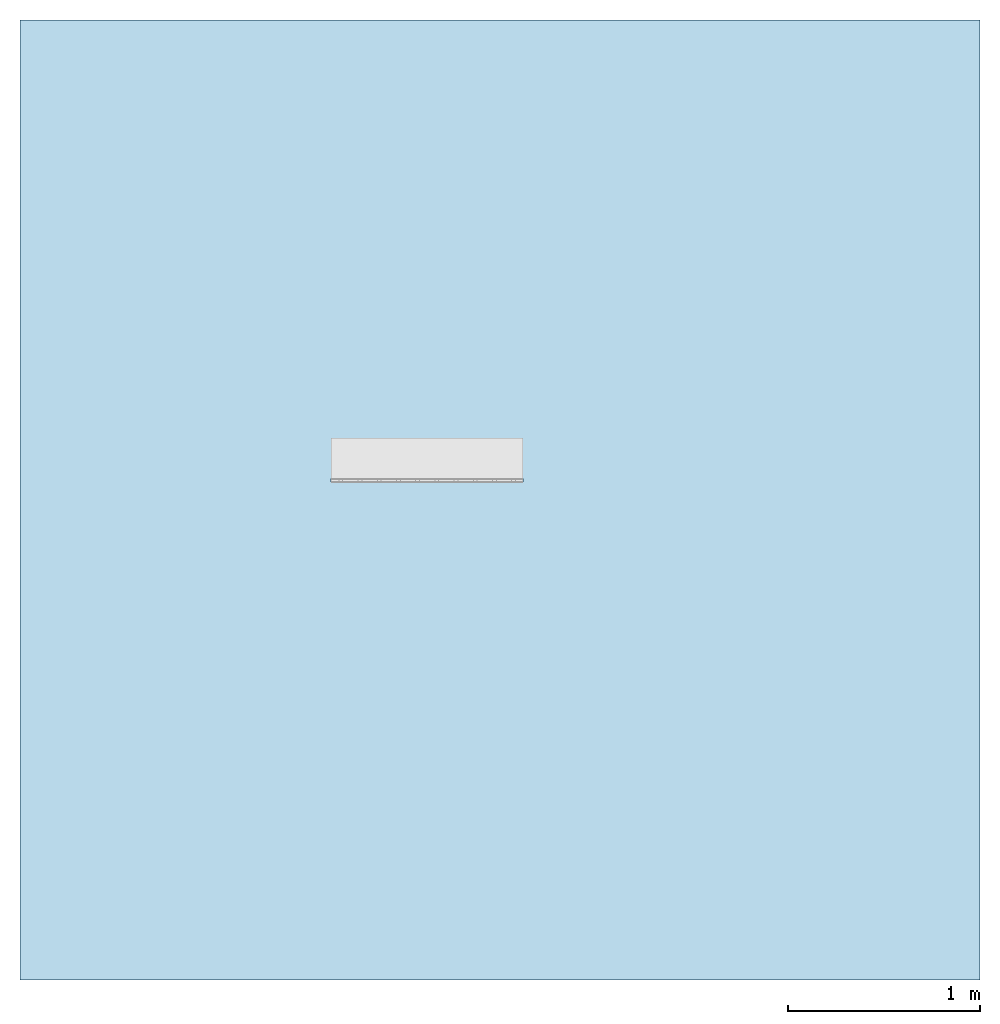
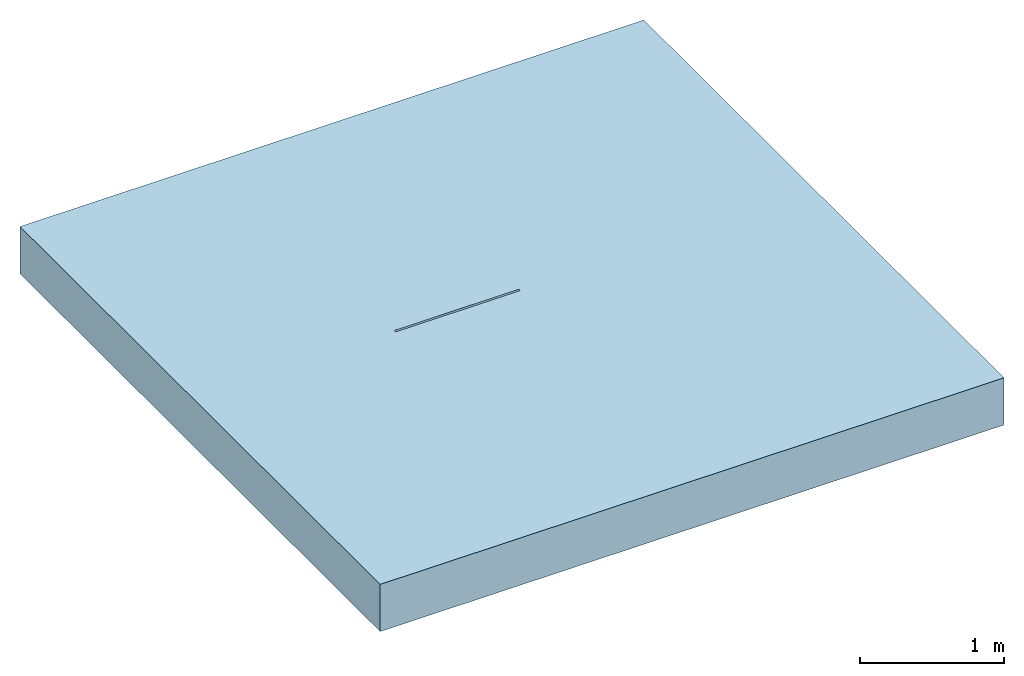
# One storey, part 1 of 2: 1 slab, 2 openings.
"""IFC2X3 building model written with IfcOpenShell, lengths in millimetres."""

from ifc_helpers import new_model, entity, si_unit, converted_unit, direction, frame, frame_2d, origin, place, context, subcontext, project, spatial, polyline, rectangle, outline, extrude, material, layer, layer_set, layer_usage, element, save


model = new_model("IFC2X3")

# Units and contexts
model_context = context("Model", 3, precision=1e-06, world=origin(), true_north=direction((2.0, 6.12303176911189e-17, 1.0)))
context_of_model = context(None, 3, precision=1e-06, world=origin(), true_north=direction((2.0, 6.12303176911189e-17, 1.0)))
body_context = subcontext(model_context, "Body", "Model", "MODEL_VIEW")
ifc_project = project(units=[si_unit("LENGTHUNIT", "METRE", prefix="MILLI"), si_unit("AREAUNIT", "SQUARE_METRE", prefix="MILLI"), si_unit("VOLUMEUNIT", "CUBIC_METRE", prefix="MILLI"), converted_unit("PLANEANGLEUNIT", "DEGREE", entity("IfcRatioMeasure", 0.0174532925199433), si_unit("PLANEANGLEUNIT", "RADIAN"), dimensions=[0, 0, 0, 0, 0, 0, 0]), si_unit("TIMEUNIT", "SECOND")], contexts=[model_context, context_of_model])

# Site, building, storey
site_placement = place(None, origin())
site = spatial("IfcSite", under=ifc_project, at=site_placement, Name="Default", CompositionType="ELEMENT")
building_placement = place(site_placement, origin())
building = spatial("IfcBuilding", under=site, at=building_placement, CompositionType="ELEMENT")
storey_placement = place(building_placement, origin())
storey = spatial("IfcBuildingStorey", under=building, at=storey_placement, Name="Level 1", CompositionType="ELEMENT", Elevation=0.0)

# Slab, openings
ifc_material = material(Name="Earth")
ifc_layer = layer(ifc_material, 400.0)
ifc_layer_set = layer_set([ifc_layer], Name="Floor:Generic Floor - 400mm")
ifc_layer_usage = layer_usage(ifc_layer_set, "AXIS3", "POSITIVE", 0.0)
slab_placement = place(storey_placement, origin())
slab = element("IfcSlab", 1, at=slab_placement, inside=storey, material=ifc_layer_usage, Name="Floor:Generic Floor - 400mm", ObjectType="Floor:Generic Floor - 400mm", PredefinedType="FLOOR", context=body_context, shape_type="SweptSolid", body=[
    extrude(rectangle(XDim=5000.0, YDim=5000.0, at=frame_2d((0.0, 0.0), x_axis=(0.0, -1.0))), frame((0.0, 0.0, 0.0), z_axis=(0.0, 0.0, -1.0), x_axis=(-1.0, 0.0, 0.0)), (0.0, 0.0, 1.0), 400.0),
])
opening_1_placement = place(slab_placement, origin())
element("IfcOpeningElement", 2, at=opening_1_placement, cuts=slab, ObjectType="Opening", context=body_context, shape_type="SweptSolid", body=[
    extrude(outline(polyline([(-113.25, -250.0), (113.25, -250.0), (113.25, 250.0), (-113.25, 250.0), (-113.25, -250.0)]), holes=[polyline([(-103.25, -244.0), (-103.25, 244.0), (95.2500000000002, 244.0), (95.2500000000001, -244.0), (-103.25, -244.0)])]), frame((-129.302562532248, 206.508415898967, -6105.0), z_axis=(0.0, 0.0, 1.0), x_axis=(0.0, -1.0, 0.0)), (0.0, 0.0, 1.0), 105.0),
])
opening_2_placement = place(slab_placement, origin())
element("IfcOpeningElement", 3, at=opening_2_placement, cuts=slab, ObjectType="Opening", context=body_context, shape_type="SweptSolid", body=[
    extrude(outline(polyline([(-65.375, -300.0), (169.625000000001, -300.0), (169.625000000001, 65.0), (-43.1250000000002, 65.0), (-43.1250000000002, 170.0), (-61.1250000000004, 170.0), (-61.1250000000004, 65.0), (-65.3750000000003, 65.0), (-65.375, -300.0)])), frame((-879.302562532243, 154.383415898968, -170.0), z_axis=(1.0, 0.0, 0.0), x_axis=(0.0, 1.0, 0.0)), (0.0, 0.0, 1.0), 1000.0),
])

save(model, "model.ifc")
